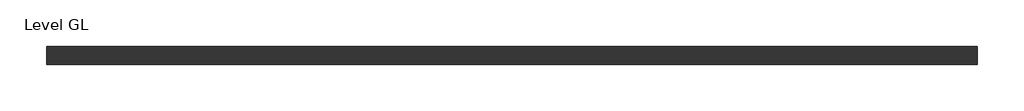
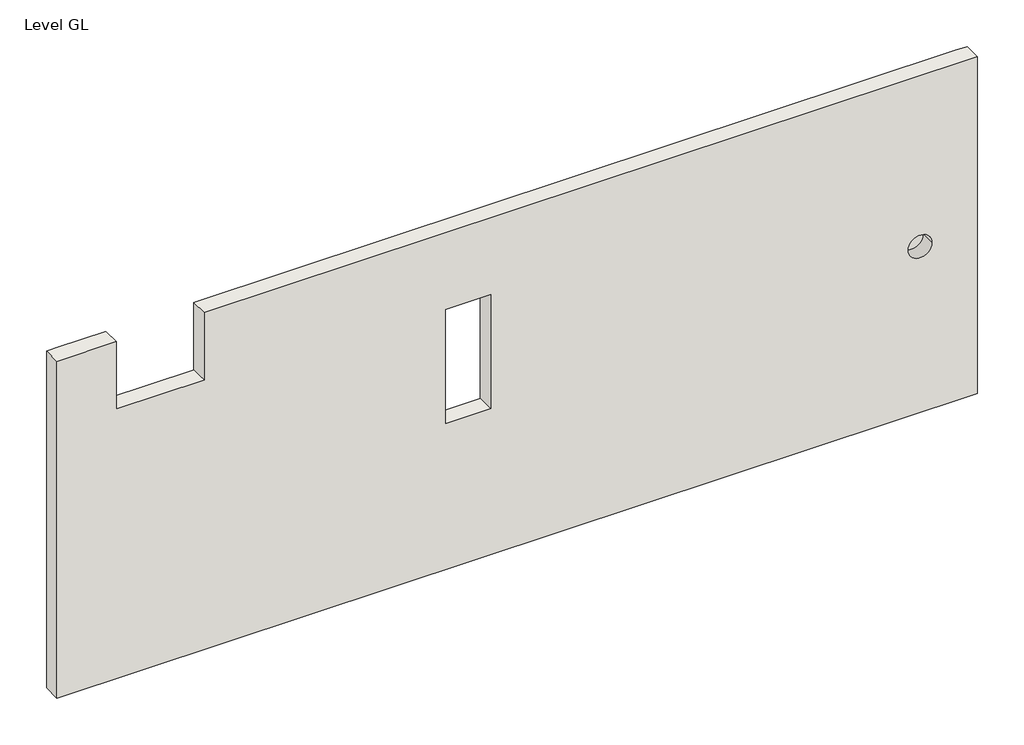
# One storey, incomplete: 1 wall.
"""IFC4 building model written with IfcOpenShell, lengths in millimetres."""

from ifc_helpers import new_model, si_unit, frame, origin, place, context, project, spatial, polyline, circle_curve, element, save
from ifc_brep_helpers import plane_surface, revolved_surface, advanced_brep

model = new_model("IFC4")

# Units and contexts
model_context = context("Model", 3, world=origin())
ifc_project = project(units=[si_unit("LENGTHUNIT", "METRE", prefix="MILLI")], contexts=[model_context])

# Site, building, storey
site = spatial("IfcSite", under=ifc_project)
building = spatial("IfcBuilding", under=site)
storey = spatial("IfcBuildingStorey", under=building, Name="Level GL", Elevation=0.0)

# Wall
placement = place(None, origin())
element("IfcWall", 1, ObjectType="Generic - 300mm", at=placement, inside=storey, context=model_context, shape_type="AdvancedBrep", body=[
    advanced_brep(
    [(7826.2760724, -12696.8966791, 0.0), (-7673.7239276, -12696.8966791, 0.0), (-7673.7239276, -12696.8966791, 4800.0), (-7673.7239276, -12696.8966791, 6000.0), (-7473.7239276, -12696.8966791, 6000.0), (-6673.7239276, -12696.8966791, 6000.0), (-6673.7239276, -12696.8966791, 4800.0), (-5191.991678, -12696.8966791, 4800.0), (-5191.991678, -12696.8966791, 6000.0), (7626.2760724, -12696.8966791, 6000.0), (7826.2760724, -12696.8966791, 6000.0), (7826.2760724, -12696.8966791, 4800.0), (-367.7239276, -12696.8966791, 2600.0), (-367.7239276, -12696.8966791, 4632.0), (-1129.7239276, -12696.8966791, 4632.0), (-1129.7239276, -12696.8966791, 2600.0), (-7673.7239276, -12996.8966791, 0.0), (7826.2760724, -12996.8966791, 0.0), (7826.2760724, -12996.8966791, 6000.0), (-5191.991678, -12996.8966791, 6000.0), (-5191.991678, -12996.8966791, 4800.0), (-6673.7239276, -12996.8966791, 4800.0), (-6673.7239276, -12996.8966791, 6000.0), (-7673.7239276, -12996.8966791, 6000.0), (-367.7239276, -12996.8966791, 2600.0), (-1129.7239276, -12996.8966791, 2600.0), (-1129.7239276, -12996.8966791, 4632.0), (-367.7239276, -12996.8966791, 4632.0), (7060.3664591, -12996.8966791, 2958.2959872), (6660.3664591, -12996.8966791, 2958.2959872), (7060.3664591, -12746.8966791, 2958.2959872), (6660.3664591, -12746.8966791, 2958.2959872)],
    [
        (0, 1),
        (1, 2),
        (2, 3),
        (3, 4),
        (4, 5),
        (5, 6),
        (6, 7),
        (7, 8),
        (8, 9),
        (9, 10),
        (10, 11),
        (11, 0),
        (12, 13),
        (13, 14),
        (14, 15),
        (15, 12),
        (16, 17),
        (17, 18),
        (18, 19),
        (19, 20),
        (20, 21),
        (21, 22),
        (22, 23),
        (23, 16),
        (24, 25),
        (25, 26),
        (26, 27),
        (27, 24),
        (28, 29, circle_curve(frame((6860.3664591, -12996.8966791, 2958.2959872), z_axis=(0.0, 1.0, 0.0), x_axis=(-1.0, 0.0, 0.0)), 200.0)),
        (29, 28, circle_curve(frame((6860.3664591, -12996.8966791, 2958.2959872), z_axis=(0.0, 1.0, 0.0), x_axis=(-1.0, 0.0, 0.0)), 200.0)),
        (1, 16),
        (23, 3),
        (24, 12),
        (15, 25),
        (14, 26),
        (13, 27),
        (10, 18),
        (17, 0),
        (8, 19),
        (6, 21),
        (20, 7),
        (22, 5),
        (30, 31, circle_curve(frame((6860.3664591, -12746.8966791, 2958.2959872), z_axis=(0.0, -1.0, 0.0), x_axis=(-1.0, 0.0, 0.0)), 200.0)),
        (31, 30, circle_curve(frame((6860.3664591, -12746.8966791, 2958.2959872), z_axis=(0.0, -1.0, 0.0), x_axis=(-1.0, 0.0, 0.0)), 200.0)),
        (31, 29),
        (28, 30),
    ],
    [
        plane_surface(frame((7726.2760724, -12696.8966791, 0.0), z_axis=(0.0, 1.0, 0.0), x_axis=(-1.0, 0.0, 0.0))),
        plane_surface(frame((7726.2760724, -12996.8966791, 0.0), z_axis=(0.0, -1.0, 0.0), x_axis=(1.0, 0.0, 0.0))),
        plane_surface(frame((-7673.7239276, -12846.8966791, 4800.0), z_axis=(-1.0, 0.0, 0.0), x_axis=(0.0, -1.0, 0.0))),
        plane_surface(frame((-367.7239276, -12996.8966791, 2600.0), z_axis=(0.0, 0.0, 1.0), x_axis=(0.0, 1.0, 0.0))),
        plane_surface(frame((-1129.7239276, -12996.8966791, 2600.0), z_axis=(1.0, 0.0, 0.0), x_axis=(0.0, 1.0, 0.0))),
        plane_surface(frame((-1129.7239276, -12996.8966791, 4632.0), z_axis=(0.0, 0.0, -1.0), x_axis=(0.0, 1.0, 0.0))),
        plane_surface(frame((-367.7239276, -12996.8966791, 4632.0), z_axis=(-1.0, 0.0, 0.0), x_axis=(0.0, 1.0, 0.0))),
        plane_surface(frame((7826.2760724, -12696.8966791, 4800.0), z_axis=(1.0, 0.0, 0.0), x_axis=(0.0, 1.0, 0.0))),
        plane_surface(frame((7726.2760724, -12696.8966791, 0.0), z_axis=(0.0, 0.0, -1.0), x_axis=(0.0, -1.0, 0.0))),
        plane_surface(frame((-5191.991678, -12696.8966791, 6000.0), z_axis=(0.0, 0.0, 1.0), x_axis=(0.0, -1.0, 0.0))),
        plane_surface(frame((-6673.7239276, -12696.8966791, 4800.0), z_axis=(0.0, 0.0, 1.0), x_axis=(0.0, -1.0, 0.0))),
        plane_surface(frame((-5191.991678, -12696.8966791, 4800.0), z_axis=(-1.0, 0.0, 0.0), x_axis=(0.0, -1.0, 0.0))),
        plane_surface(frame((-7573.7239276, -12696.8966791, 6000.0), z_axis=(0.0, 0.0, 1.0), x_axis=(0.0, -1.0, 0.0))),
        plane_surface(frame((-6673.7239276, -12696.8966791, 6000.0), z_axis=(1.0, 0.0, 0.0), x_axis=(0.0, -1.0, 0.0))),
        plane_surface(frame((6660.3664591, -12746.8966791, 2958.2959872), z_axis=(0.0, -1.0, 0.0), x_axis=(0.0, 0.0, 1.0))),
        revolved_surface(polyline([(6660.3664591, -12746.8966791, 2958.2959872), (6660.3664591, -12996.8966791, 2958.2959872)]), (6860.3664591, -12996.8966791, 2958.2959872), (0.0, 1.0, 0.0)),
    ],
    [
        (0, [[1, 2, 3, 4, 5, 6, 7, 8, 9, 10, 11, 12], [13, 14, 15, 16]]),
        (1, [[17, 18, 19, 20, 21, 22, 23, 24], [25, 26, 27, 28], [29, 30]]),
        (2, [[-3, -2, 31, -24, 32]]),
        (3, [[-25, 33, -16, 34]]),
        (4, [[-26, -34, -15, 35]]),
        (5, [[-27, -35, -14, 36]]),
        (6, [[-28, -36, -13, -33]]),
        (7, [[-12, -11, 37, -18, 38]]),
        (8, [[-1, -38, -17, -31]]),
        (9, [[-10, -9, 39, -19, -37]]),
        (10, [[-7, 40, -21, 41]]),
        (11, [[-8, -41, -20, -39]]),
        (12, [[-5, -4, -32, -23, 42]]),
        (13, [[-6, -42, -22, -40]]),
        (14, [[43, 44]]),
        (15, [[-44, 45, -29, 46]]),
        (15, [[-43, -46, -30, -45]]),
    ],
),
])

save(model, "model.ifc")
